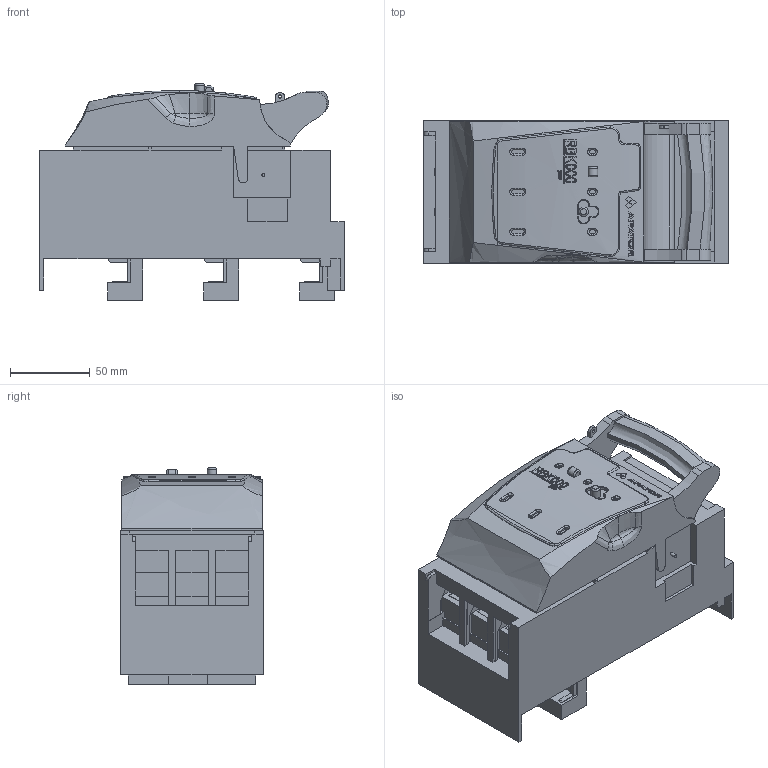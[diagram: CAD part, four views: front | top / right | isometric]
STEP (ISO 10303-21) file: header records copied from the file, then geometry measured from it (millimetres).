
FILE_DESCRIPTION(/* description */ (''),/* implementation_level */ '2;1');
FILE_NAME(/* name */ 'RBK 000 pro-SD - 63-823234-031.stp',/* time_stamp */ '2019-03-13T08:45:50+01:00',/* author */ (''),/* organization */ (''),/* preprocessor_version */ 'ST-DEVELOPER v16',/* originating_system */ 'SIEMENS PLM Software NX 10.0',/* authorisation */ '');
FILE_SCHEMA (('AUTOMOTIVE_DESIGN { 1 0 10303 214 3 1 1 1 }'));
Products named in the file (1): 710_09740238alkd
Bounding box: 190.5 x 89 x 135.5 mm (x, y, z)
Volume: 1456391.1 mm3; surface area: 125903.5 mm2
Topology: 1 solids, 1 shells, 1229 faces, 3463 edges, 2283 vertices
Faces by surface type: plane 956, cylinder 101, extrusion 100, bspline 54, torus 18
Full cylindrical faces by diameter (mm): 1.9 x2, 2 x1, 5.8 x2, 5.86 x1, 8.5 x3
Entity records: 53783 total; most frequent: CARTESIAN_POINT 16023, ORIENTED_EDGE 6896, DIRECTION 5595, EDGE_CURVE 3448, VERTEX_POINT 2280, AXIS2_PLACEMENT_3D 1925, VECTOR 1745, LINE 1645
